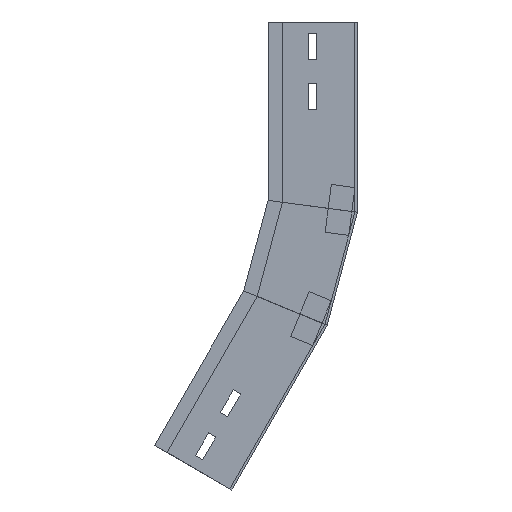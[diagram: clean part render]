
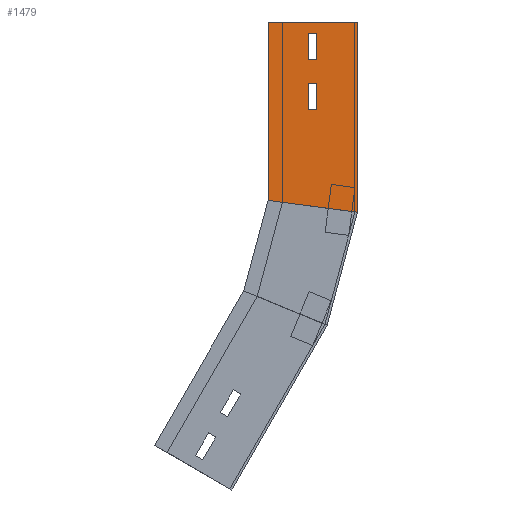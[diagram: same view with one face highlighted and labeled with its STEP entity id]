
A CAD part, left-side view. The second image highlights one B-rep face of the part: STEP entity #1479.
In plain terms, the highlighted planar face has unit normal (-1, 0, 0) as drawn and (1, 0, 0) by its records, which use the part's own axes.
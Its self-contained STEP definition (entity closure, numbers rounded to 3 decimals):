
#7 = VECTOR ( 'NONE', #239, 1000. ) ;
#14 = VECTOR ( 'NONE', #600, 1000. ) ;
#28 = VERTEX_POINT ( 'NONE', #482 ) ;
#31 = EDGE_CURVE ( 'NONE', #716, #1288, #1424, .T. ) ;
#34 = LINE ( 'NONE', #853, #1458 ) ;
#49 = VECTOR ( 'NONE', #451, 1000. ) ;
#66 = VECTOR ( 'NONE', #795, 1000. ) ;
#88 = CARTESIAN_POINT ( 'NONE',  ( 0., 135.881, -363.937 ) ) ;
#92 = VERTEX_POINT ( 'NONE', #1203 ) ;
#114 = EDGE_CURVE ( 'NONE', #298, #687, #748, .T. ) ;
#137 = DIRECTION ( 'NONE',  ( 0., 0.5, -0.866 ) ) ;
#141 = ORIENTED_EDGE ( 'NONE', *, *, #114, .F. ) ;
#160 = DIRECTION ( 'NONE',  ( 0., 0.5, -0.866 ) ) ;
#164 = CARTESIAN_POINT ( 'NONE',  ( 0., 129.819, -367.437 ) ) ;
#170 = ORIENTED_EDGE ( 'NONE', *, *, #255, .F. ) ;
#179 = CARTESIAN_POINT ( 'NONE',  ( 0., 104.046, -308.798 ) ) ;
#201 = CARTESIAN_POINT ( 'NONE',  ( 0., 37.296, -249.74 ) ) ;
#229 = CARTESIAN_POINT ( 'NONE',  ( 0., 105.292, -392.955 ) ) ;
#239 = DIRECTION ( 'NONE',  ( 0., 0.5, -0.866 ) ) ;
#255 = EDGE_CURVE ( 'NONE', #1288, #1348, #1333, .T. ) ;
#265 = ORIENTED_EDGE ( 'NONE', *, *, #1056, .F. ) ;
#267 = EDGE_CURVE ( 'NONE', #1102, #1095, #533, .T. ) ;
#280 = LINE ( 'NONE', #965, #541 ) ;
#297 = DIRECTION ( 'NONE',  ( 0., 0., 1. ) ) ;
#298 = VERTEX_POINT ( 'NONE', #784 ) ;
#302 = DIRECTION ( 'NONE',  ( 0., -0.924, -0.383 ) ) ;
#316 = FACE_BOUND ( 'NONE', #646, .T. ) ;
#326 = VERTEX_POINT ( 'NONE', #1400 ) ;
#364 = EDGE_CURVE ( 'NONE', #92, #407, #1040, .T. ) ;
#368 = VECTOR ( 'NONE', #1220, 1000. ) ;
#407 = VERTEX_POINT ( 'NONE', #591 ) ;
#433 = VECTOR ( 'NONE', #607, 1000. ) ;
#451 = DIRECTION ( 'NONE',  ( 0., 0.5, -0.866 ) ) ;
#453 = ORIENTED_EDGE ( 'NONE', *, *, #267, .T. ) ;
#482 = CARTESIAN_POINT ( 'NONE',  ( 0., 105.292, -392.955 ) ) ;
#484 = EDGE_CURVE ( 'NONE', #1095, #28, #280, .T. ) ;
#533 = LINE ( 'NONE', #201, #1066 ) ;
#541 = VECTOR ( 'NONE', #137, 1000. ) ;
#546 = VECTOR ( 'NONE', #594, 1000. ) ;
#577 = ORIENTED_EDGE ( 'NONE', *, *, #1380, .F. ) ;
#591 = CARTESIAN_POINT ( 'NONE',  ( 0., 108.984, -331.35 ) ) ;
#594 = DIRECTION ( 'NONE',  ( 0., 0.866, 0.5 ) ) ;
#600 = DIRECTION ( 'NONE',  ( 0., -0.5, 0.866 ) ) ;
#607 = DIRECTION ( 'NONE',  ( 0., -0.5, 0.866 ) ) ;
#608 = CARTESIAN_POINT ( 'NONE',  ( 0., 90.394, -217.151 ) ) ;
#635 = ORIENTED_EDGE ( 'NONE', *, *, #1271, .F. ) ;
#646 = EDGE_LOOP ( 'NONE', ( #695, #265, #846, #170 ) ) ;
#662 = CARTESIAN_POINT ( 'NONE',  ( 0., 95.331, -225.702 ) ) ;
#675 = AXIS2_PLACEMENT_3D ( 'NONE', #1108, #1481, #297 ) ;
#687 = VERTEX_POINT ( 'NONE', #179 ) ;
#695 = ORIENTED_EDGE ( 'NONE', *, *, #31, .F. ) ;
#702 = EDGE_CURVE ( 'NONE', #687, #92, #981, .T. ) ;
#709 = LINE ( 'NONE', #229, #546 ) ;
#716 = VERTEX_POINT ( 'NONE', #88 ) ;
#748 = LINE ( 'NONE', #1085, #433 ) ;
#784 = CARTESIAN_POINT ( 'NONE',  ( 0., 115.046, -327.85 ) ) ;
#785 = PLANE ( 'NONE',  #675 ) ;
#795 = DIRECTION ( 'NONE',  ( 0., 0.866, 0.5 ) ) ;
#814 = CARTESIAN_POINT ( 'NONE',  ( 0., 129.819, -367.437 ) ) ;
#846 = ORIENTED_EDGE ( 'NONE', *, *, #889, .F. ) ;
#853 = CARTESIAN_POINT ( 'NONE',  ( 0., 115.046, -327.85 ) ) ;
#854 = VERTEX_POINT ( 'NONE', #814 ) ;
#884 = FACE_OUTER_BOUND ( 'NONE', #986, .T. ) ;
#889 = EDGE_CURVE ( 'NONE', #1348, #854, #1269, .T. ) ;
#894 = CARTESIAN_POINT ( 'NONE',  ( 0., 25.442, -254.651 ) ) ;
#900 = LINE ( 'NONE', #1461, #66 ) ;
#928 = ORIENTED_EDGE ( 'NONE', *, *, #1246, .T. ) ;
#965 = CARTESIAN_POINT ( 'NONE',  ( 0., 25.442, -254.651 ) ) ;
#971 = VECTOR ( 'NONE', #160, 1000. ) ;
#981 = LINE ( 'NONE', #1342, #1291 ) ;
#986 = EDGE_LOOP ( 'NONE', ( #453, #1338, #928, #635 ) ) ;
#1001 = ORIENTED_EDGE ( 'NONE', *, *, #702, .F. ) ;
#1040 = LINE ( 'NONE', #1492, #7 ) ;
#1056 = EDGE_CURVE ( 'NONE', #854, #716, #900, .T. ) ;
#1066 = VECTOR ( 'NONE', #302, 1000. ) ;
#1085 = CARTESIAN_POINT ( 'NONE',  ( 0., 115.046, -327.85 ) ) ;
#1086 = LINE ( 'NONE', #608, #971 ) ;
#1095 = VERTEX_POINT ( 'NONE', #894 ) ;
#1102 = VERTEX_POINT ( 'NONE', #662 ) ;
#1104 = DIRECTION ( 'NONE',  ( 0., -0.866, -0.5 ) ) ;
#1107 = CARTESIAN_POINT ( 'NONE',  ( 0., 124.881, -344.885 ) ) ;
#1108 = CARTESIAN_POINT ( 'NONE',  ( 0., 25.442, -254.651 ) ) ;
#1181 = CARTESIAN_POINT ( 'NONE',  ( 0., 124.881, -344.885 ) ) ;
#1203 = CARTESIAN_POINT ( 'NONE',  ( 0., 97.984, -312.298 ) ) ;
#1220 = DIRECTION ( 'NONE',  ( 0., -0.866, -0.5 ) ) ;
#1246 = EDGE_CURVE ( 'NONE', #28, #326, #709, .T. ) ;
#1269 = LINE ( 'NONE', #164, #49 ) ;
#1271 = EDGE_CURVE ( 'NONE', #1102, #326, #1086, .T. ) ;
#1288 = VERTEX_POINT ( 'NONE', #1181 ) ;
#1289 = ORIENTED_EDGE ( 'NONE', *, *, #364, .F. ) ;
#1291 = VECTOR ( 'NONE', #1104, 1000. ) ;
#1312 = EDGE_LOOP ( 'NONE', ( #141, #577, #1289, #1001 ) ) ;
#1316 = DIRECTION ( 'NONE',  ( 0., 0.866, 0.5 ) ) ;
#1333 = LINE ( 'NONE', #1107, #368 ) ;
#1338 = ORIENTED_EDGE ( 'NONE', *, *, #484, .T. ) ;
#1342 = CARTESIAN_POINT ( 'NONE',  ( 0., 104.046, -308.798 ) ) ;
#1348 = VERTEX_POINT ( 'NONE', #1435 ) ;
#1358 = FACE_BOUND ( 'NONE', #1312, .T. ) ;
#1380 = EDGE_CURVE ( 'NONE', #407, #298, #34, .T. ) ;
#1400 = CARTESIAN_POINT ( 'NONE',  ( 0., 170.244, -355.455 ) ) ;
#1408 = CARTESIAN_POINT ( 'NONE',  ( 0., 135.881, -363.937 ) ) ;
#1424 = LINE ( 'NONE', #1408, #14 ) ;
#1435 = CARTESIAN_POINT ( 'NONE',  ( 0., 118.819, -348.385 ) ) ;
#1458 = VECTOR ( 'NONE', #1316, 1000. ) ;
#1461 = CARTESIAN_POINT ( 'NONE',  ( 0., 135.881, -363.937 ) ) ;
#1479 = ADVANCED_FACE ( 'NONE', ( #316, #1358, #884 ), #785, .F. ) ;
#1481 = DIRECTION ( 'NONE',  ( -1., 0., 0. ) ) ;
#1492 = CARTESIAN_POINT ( 'NONE',  ( 0., 108.984, -331.35 ) ) ;
